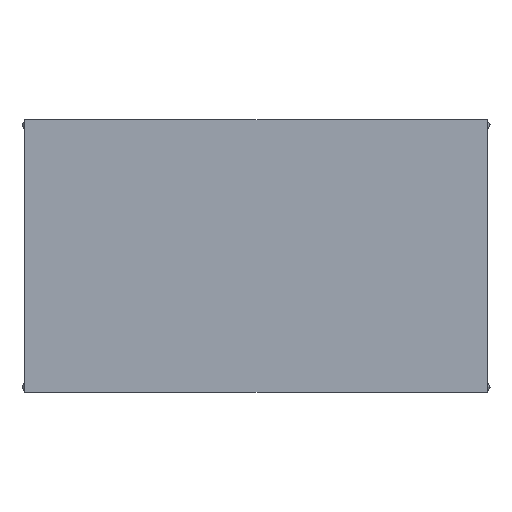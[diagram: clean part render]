
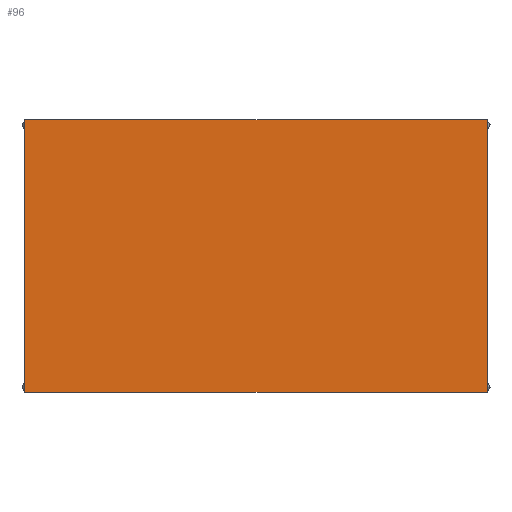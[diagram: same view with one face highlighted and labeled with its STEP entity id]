
A CAD part, top view. The second image highlights one B-rep face of the part: STEP entity #96.
In plain terms, the highlighted planar face has unit normal (0, 0, 1).
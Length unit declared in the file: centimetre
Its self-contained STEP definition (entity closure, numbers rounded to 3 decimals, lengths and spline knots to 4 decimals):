
#96=ADVANCED_FACE($,(#162),#732,.T.);
#162=FACE_OUTER_BOUND($,#228,.T.);
#228=EDGE_LOOP($,(#470,#471,#472,#473));
#470=ORIENTED_EDGE($,*,*,#593,.F.);
#471=ORIENTED_EDGE($,*,*,#592,.F.);
#472=ORIENTED_EDGE($,*,*,#591,.F.);
#473=ORIENTED_EDGE($,*,*,#590,.F.);
#590=EDGE_CURVE($,#666,#667,#798,.T.);
#591=EDGE_CURVE($,#667,#668,#799,.T.);
#592=EDGE_CURVE($,#668,#669,#800,.T.);
#593=EDGE_CURVE($,#669,#666,#801,.T.);
#666=VERTEX_POINT($,#2244);
#667=VERTEX_POINT($,#2245);
#668=VERTEX_POINT($,#2246);
#669=VERTEX_POINT($,#2247);
#732=PLANE($,#982);
#798=B_SPLINE_CURVE_WITH_KNOTS($,1,(#2214,#2215),.UNSPECIFIED.,.F.,.F.,(2,
2),(0.,100.),.UNSPECIFIED.);
#799=B_SPLINE_CURVE_WITH_KNOTS($,1,(#2216,#2217),.UNSPECIFIED.,.F.,.F.,(2,
2),(0.,170.),.UNSPECIFIED.);
#800=B_SPLINE_CURVE_WITH_KNOTS($,1,(#2218,#2219),.UNSPECIFIED.,.F.,.F.,(2,
2),(0.,100.),.UNSPECIFIED.);
#801=B_SPLINE_CURVE_WITH_KNOTS($,1,(#2220,#2221),.UNSPECIFIED.,.F.,.F.,(2,
2),(0.,170.),.UNSPECIFIED.);
#982=AXIS2_PLACEMENT_3D($,#2242,#1023,$);
#1023=DIRECTION($,(0.,0.,1.));
#2214=CARTESIAN_POINT($,(0.,0.,72.5));
#2215=CARTESIAN_POINT($,(0.,100.,72.5));
#2216=CARTESIAN_POINT($,(0.,100.,72.5));
#2217=CARTESIAN_POINT($,(170.,100.,72.5));
#2218=CARTESIAN_POINT($,(170.,100.,72.5));
#2219=CARTESIAN_POINT($,(170.,0.,72.5));
#2220=CARTESIAN_POINT($,(170.,0.,72.5));
#2221=CARTESIAN_POINT($,(0.,0.,72.5));
#2242=CARTESIAN_POINT($,(0.,0.,72.5));
#2244=CARTESIAN_POINT($,(0.,0.,72.5));
#2245=CARTESIAN_POINT($,(0.,100.,72.5));
#2246=CARTESIAN_POINT($,(170.,100.,72.5));
#2247=CARTESIAN_POINT($,(170.,0.,72.5));
